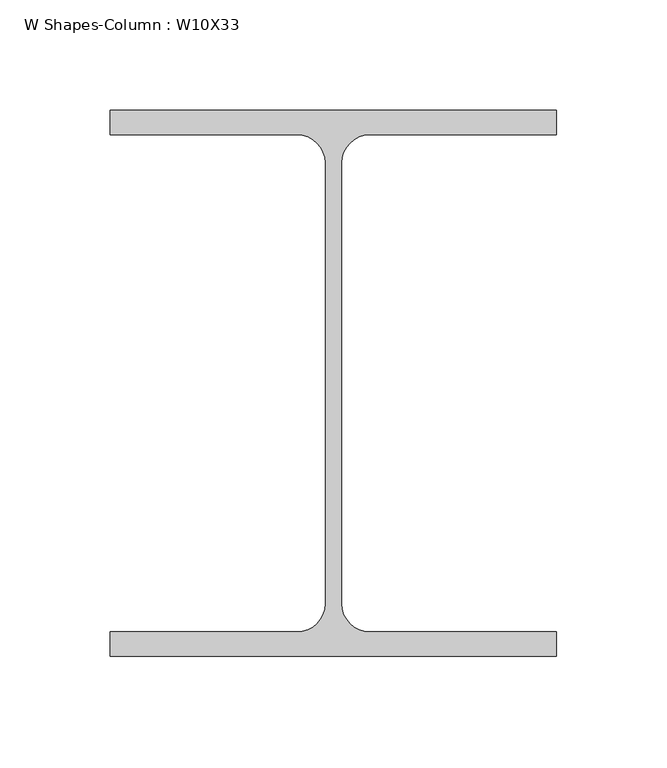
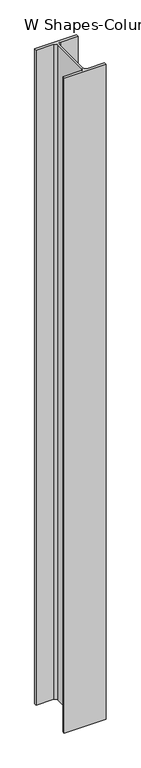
"""IFC4 building model written with IfcOpenShell, lengths in millimetres: column geometry, W Shapes-Column : W10X33."""

from ifc_helpers import new_model, si_unit, point, frame, frame_2d, origin, place, context, project, spatial, polyline, circle_curve, trimmed, segment, composite_curve, outline, extrude, source, transform, mapped, element, save


def w_shapes_column_w10x33_dd564183(model_context):
    return source(origin(), model_context, "Body", "SweptSolid", [
        extrude(outline(composite_curve([segment(polyline([(101.092, 123.571), (101.092, 112.522), (16.383, 112.522)]), True, "CONTINUOUS"), segment(trimmed(circle_curve(frame_2d((16.383, 99.822)), 12.7), [point((16.383, 112.522))], [point((3.683, 99.822))], True, "CARTESIAN"), True, "CONTINUOUS"), segment(polyline([(3.683, 99.822), (3.683, -99.822)]), True, "CONTINUOUS"), segment(trimmed(circle_curve(frame_2d((16.383, -99.822)), 12.7), [point((3.683, -99.822))], [point((16.383, -112.522))], True, "CARTESIAN"), True, "CONTINUOUS"), segment(polyline([(16.383, -112.522), (101.092, -112.522), (101.092, -123.571), (-101.092, -123.571), (-101.092, -112.522), (-16.383, -112.522)]), True, "CONTINUOUS"), segment(trimmed(circle_curve(frame_2d((-16.383, -99.822)), 12.7), [point((-16.383, -112.522))], [point((-3.683, -99.822))], True, "CARTESIAN"), True, "CONTINUOUS"), segment(polyline([(-3.683, -99.822), (-3.683, 99.822)]), True, "CONTINUOUS"), segment(trimmed(circle_curve(frame_2d((-16.383, 99.822)), 12.7), [point((-3.683, 99.822))], [point((-16.383, 112.522))], True, "CARTESIAN"), True, "CONTINUOUS"), segment(polyline([(-16.383, 112.522), (-101.092, 112.522), (-101.092, 123.571), (101.092, 123.571)]), True, "CONTINUOUS")], self_intersect=False)), frame((0.0, 0.0, 13411.2), z_axis=(0.0, 0.0, 1.0), x_axis=(1.0, 0.0, 0.0)), (0.0, 0.0, 1.0), 3346.3239183),
    ])


if __name__ == "__main__":
    model = new_model("IFC4")
    model_context = context("Model", 3, world=origin())
    ifc_project = project(units=[si_unit("LENGTHUNIT", "METRE", prefix="MILLI")], contexts=[model_context])
    site = spatial("IfcSite", under=ifc_project)
    building = spatial("IfcBuilding", under=site)
    placement = place(None, origin())
    w_shapes_column_w10x33_shape = w_shapes_column_w10x33_dd564183(model_context)
    element("IfcColumn", 1, ObjectType="W Shapes-Column : W10X33", at=placement, inside=building, context=model_context, shape_type="MappedRepresentation", body=[
        mapped(w_shapes_column_w10x33_shape, transform((0.0, 0.0, 0.0), x_axis=(1.0, 0.0, 0.0), y_axis=(0.0, 1.0, 0.0), z_axis=(0.0, 0.0, 1.0))),
    ])
    save(model, "model.ifc")
